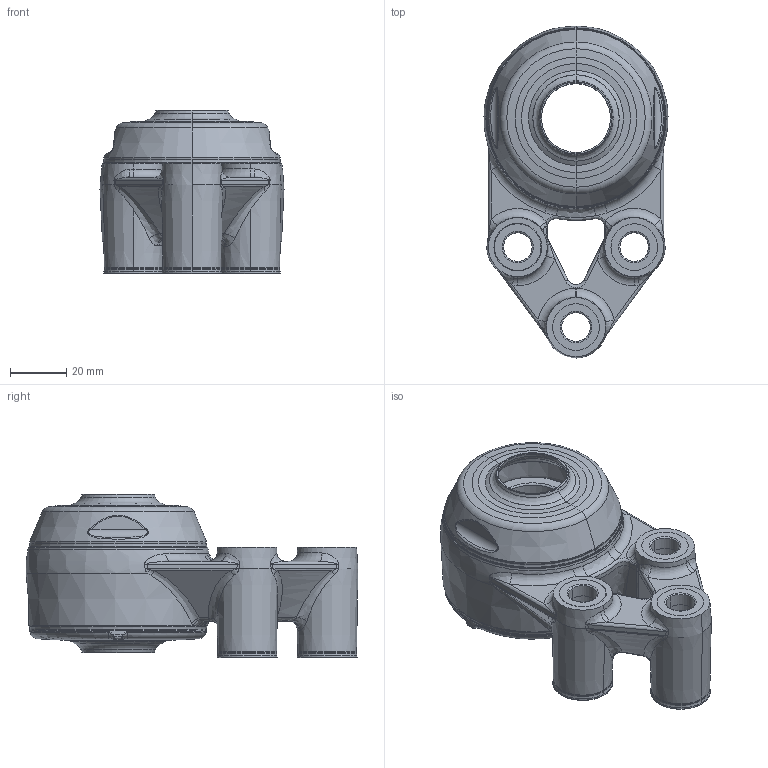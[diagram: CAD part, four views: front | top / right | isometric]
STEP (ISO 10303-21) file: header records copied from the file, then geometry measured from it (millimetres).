
FILE_DESCRIPTION (( 'STEP AP203' ), '1' );
FILE_NAME ('XB3FC52(Blue)-CSB2500(Front)-OM(Blue)-OS(Blue)_Shell.step', '2020-09-22T10:32:19', ( '' ), ( '' ), 'SwSTEP 2.0', 'SolidWorks 2019', '' );
FILE_SCHEMA (( 'CONFIG_CONTROL_DESIGN' ));
Length unit declared in the file: millimetre
Products named in the file (1): XB3FC52(Blue)-CSB2500(Front)-OM(Blue)-OS(Blue)_Shell
Bounding box: 65.6 x 118.34 x 58.14 mm (x, y, z)
Surface area: 43348.4 mm2 (no closed solid volume)
Topology: 0 solids, 37 shells, 526 faces, 1900 edges, 1381 vertices
Faces by surface type: bspline 195, cone 96, torus 89, cylinder 70, plane 46, sphere 30
Entity records: 33747 total; most frequent: CARTESIAN_POINT 20017, ORIENTED_EDGE 2957, DIRECTION 2219, EDGE_CURVE 1896, VERTEX_POINT 1381, AXIS2_PLACEMENT_3D 1003, B_SPLINE_CURVE_WITH_KNOTS 987, CIRCLE 671
